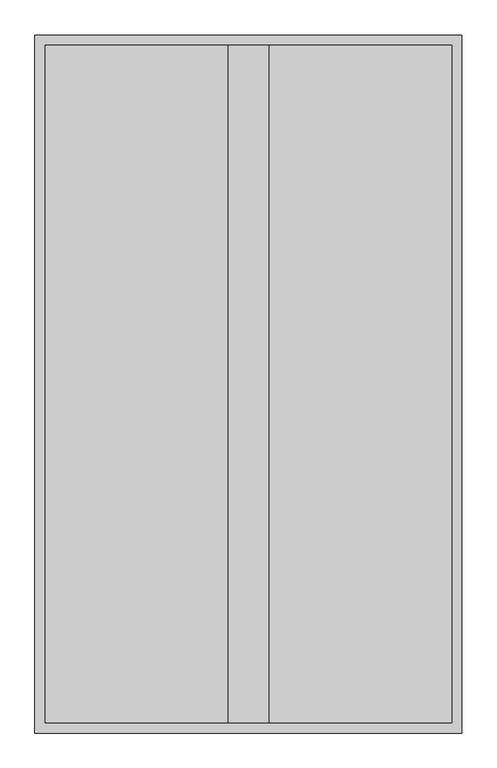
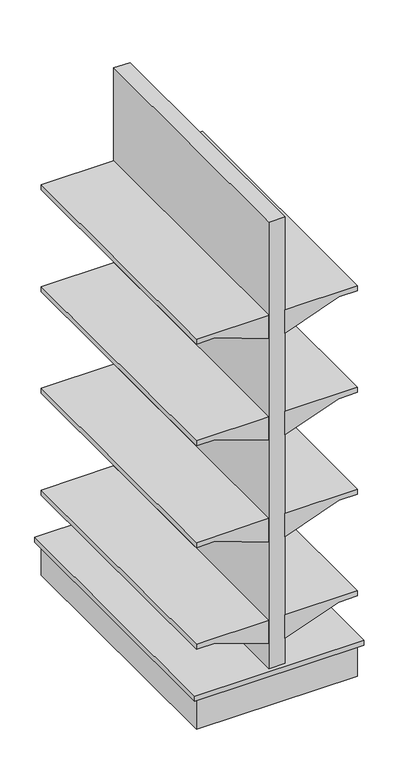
"""IFC4 building model written with IfcOpenShell, lengths in millimetres: proxy geometry, BIMHealth-Racking-LOD2A-v1 : BIMHealth-Racking-LOD2A-v1."""

from ifc_helpers import new_model, si_unit, frame, origin, place, context, project, spatial, polyline, outline, extrude, faceted_brep, source, transform, mapped, element, save


def generic_models_883c4dca(model_context):
    return source(origin(), model_context, "Body", "SolidModel", [
        extrude(outline(polyline([(1535.0, -300.0), (1515.0, -300.0), (1515.0, -230.0), (1442.2059531, -30.0), (1535.0, -30.0), (1535.0, -300.0)])), frame((0.0, -500.0, 0.0), z_axis=(0.0, 1.0, 0.0), x_axis=(0.0, 0.0, 1.0)), (0.0, 0.0, 1.0), 1000.0),
        extrude(outline(polyline([(1535.0, 300.0), (1535.0, 30.0), (1442.2059531, 30.0), (1515.0, 230.0), (1515.0, 300.0), (1535.0, 300.0)])), frame((0.0, -500.0, 0.0), z_axis=(0.0, 1.0, 0.0), x_axis=(0.0, 0.0, 1.0)), (0.0, 0.0, 1.0), 1000.0),
        extrude(outline(polyline([(1135.0, -300.0), (1115.0, -300.0), (1115.0, -230.0), (1042.2059531, -30.0), (1135.0, -30.0), (1135.0, -300.0)])), frame((0.0, -500.0, 0.0), z_axis=(0.0, 1.0, 0.0), x_axis=(0.0, 0.0, 1.0)), (0.0, 0.0, 1.0), 1000.0),
        extrude(outline(polyline([(1135.0, 300.0), (1135.0, 30.0), (1042.2059531, 30.0), (1115.0, 230.0), (1115.0, 300.0), (1135.0, 300.0)])), frame((0.0, -500.0, 0.0), z_axis=(0.0, 1.0, 0.0), x_axis=(0.0, 0.0, 1.0)), (0.0, 0.0, 1.0), 1000.0),
        extrude(outline(polyline([(335.0, -300.0), (315.0, -300.0), (315.0, -230.0), (242.2059531, -30.0), (335.0, -30.0), (335.0, -300.0)])), frame((0.0, -500.0, 0.0), z_axis=(0.0, 1.0, 0.0), x_axis=(0.0, 0.0, 1.0)), (0.0, 0.0, 1.0), 1000.0),
        extrude(outline(polyline([(335.0, 300.0), (335.0, 30.0), (242.2059531, 30.0), (315.0, 230.0), (315.0, 300.0), (335.0, 300.0)])), frame((0.0, -500.0, 0.0), z_axis=(0.0, 1.0, 0.0), x_axis=(0.0, 0.0, 1.0)), (0.0, 0.0, 1.0), 1000.0),
        extrude(outline(polyline([(735.0, -300.0), (715.0, -300.0), (715.0, -230.0), (642.2059531, -30.0), (735.0, -30.0), (735.0, -300.0)])), frame((0.0, -500.0, 0.0), z_axis=(0.0, 1.0, 0.0), x_axis=(0.0, 0.0, 1.0)), (0.0, 0.0, 1.0), 1000.0),
        extrude(outline(polyline([(735.0, 300.0), (735.0, 30.0), (642.2059531, 30.0), (715.0, 230.0), (715.0, 300.0), (735.0, 300.0)])), frame((0.0, -500.0, 0.0), z_axis=(0.0, 1.0, 0.0), x_axis=(0.0, 0.0, 1.0)), (0.0, 0.0, 1.0), 1000.0),
        faceted_brep([(300.0, 500.0, 0.0), (300.0, 500.0, 125.0), (300.0, -500.0, 125.0), (300.0, -500.0, 0.0), (-300.0, 500.0, 0.0), (-300.0, -500.0, 0.0), (-300.0, -500.0, 125.0), (-300.0, 500.0, 125.0), (315.0, 515.0, 145.0), (-315.0, 515.0, 145.0), (-315.0, -515.0, 145.0), (315.0, -515.0, 145.0), (30.0, -500.0, 145.0), (-30.0, -500.0, 145.0), (-30.0, 500.0, 145.0), (30.0, 500.0, 145.0), (315.0, 515.0, 125.0), (315.0, -515.0, 125.0), (-315.0, -515.0, 125.0), (-315.0, 515.0, 125.0), (-30.0, -500.0, 1900.0), (30.0, -500.0, 1900.0), (30.0, 500.0, 1900.0), (-30.0, 500.0, 1900.0)], [[[0, 1, 2, 3]], [[4, 5, 6, 7]], [[0, 3, 5, 4]], [[3, 2, 6, 5]], [[1, 0, 4, 7]], [[8, 9, 10, 11], [12, 13, 14, 15]], [[16, 17, 18, 19], [2, 1, 7, 6]], [[9, 8, 16, 19]], [[10, 9, 19, 18]], [[11, 10, 18, 17]], [[8, 11, 17, 16]], [[20, 21, 22, 23]], [[21, 20, 13, 12]], [[22, 21, 12, 15]], [[23, 22, 15, 14]], [[20, 23, 14, 13]]]),
    ])


if __name__ == "__main__":
    model = new_model("IFC4")
    model_context = context("Model", 3, world=origin())
    ifc_project = project(units=[si_unit("LENGTHUNIT", "METRE", prefix="MILLI")], contexts=[model_context])
    site = spatial("IfcSite", under=ifc_project)
    building = spatial("IfcBuilding", under=site)
    placement = place(None, origin())
    generic_models_shape = generic_models_883c4dca(model_context)
    element("IfcBuildingElementProxy", 1, Name="BIMHealth-Racking-LOD2A-v1 : BIMHealth-Racking-LOD2A-v1", ObjectType="BIMHealth-Racking-LOD2A-v1 : BIMHealth-Racking-LOD2A-v1", at=placement, inside=building, context=model_context, shape_type="MappedRepresentation", body=[
        mapped(generic_models_shape, transform((0.0, 0.0, 0.0), x_axis=(1.0, 0.0, 0.0), y_axis=(0.0, 1.0, 0.0), z_axis=(0.0, 0.0, 1.0))),
    ])
    save(model, "model.ifc")
